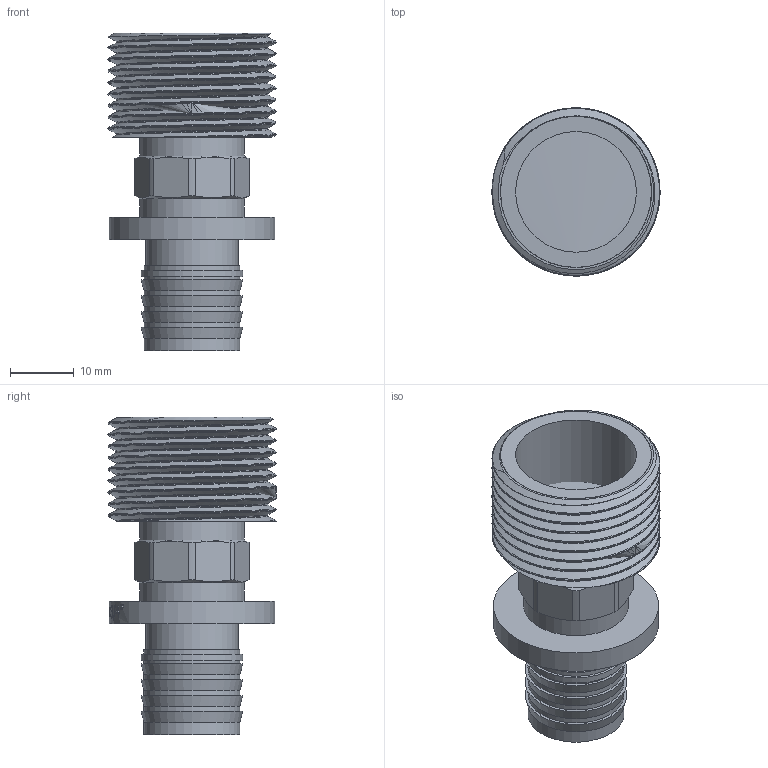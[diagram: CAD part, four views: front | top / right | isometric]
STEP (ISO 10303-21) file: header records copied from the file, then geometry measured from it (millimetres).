
FILE_DESCRIPTION(/* description */ (''),/* implementation_level */ '2;1');
FILE_NAME(/* name */ 'C:\Users\Doom\Desktop\Фадотех\Натяжка\FD-SFM14NEW 07.05.2020\FADO-SFM14NEW 07.05.2020.stp',/* time_stamp */ '2022-07-22T18:17:21+03:00',/* author */ ('Doom'),/* organization */ (''),/* preprocessor_version */ 'ST-DEVELOPER v18',/* originating_system */ 'Autodesk Inventor 2020',/* authorisation */ '');
FILE_SCHEMA (('AUTOMOTIVE_DESIGN { 1 0 10303 214 3 1 1 }'));
Length unit declared in the file: millimetre
Products named in the file (1): FADO-SFM14NEW 07.05.2020
Bounding box: 26.44 x 26.43 x 50 mm (x, y, z)
Volume: 9547.1 mm3; surface area: 10356.2 mm2
Topology: 2 solids, 2 shells, 195 faces, 531 edges, 362 vertices
Faces by surface type: bspline 73, plane 67, cylinder 46, cone 9
Full cylindrical faces by diameter (mm): 10.8 x1, 14.5 x1, 15.1 x6, 16 x1, 16.5 x2, 19 x1, 23.75 x2, 26 x1, 26.44 x9
Entity records: 12626 total; most frequent: CARTESIAN_POINT 8065, ORIENTED_EDGE 1062, DIRECTION 735, EDGE_CURVE 531, VERTEX_POINT 362, AXIS2_PLACEMENT_3D 269, EDGE_LOOP 221, LINE 197
